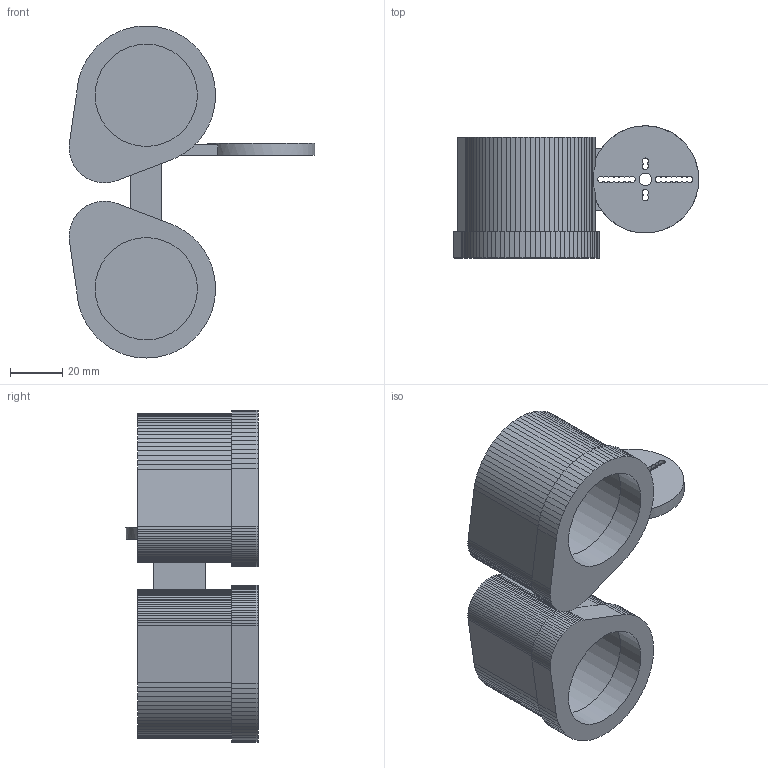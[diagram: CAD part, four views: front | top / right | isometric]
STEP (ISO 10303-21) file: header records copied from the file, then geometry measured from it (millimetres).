
FILE_DESCRIPTION(('Open CASCADE Model'),'2;1');
FILE_NAME('Open CASCADE Shape Model','2026-11-19T06:40:10',('Author'),( 'Open CASCADE'),'Open CASCADE STEP processor 8.0','Open CASCADE 8.0' ,'Unknown');
FILE_SCHEMA(('AUTOMOTIVE_DESIGN { 1 0 10303 214 1 1 1 1 }'));
Length unit declared in the file: millimetre
Products named in the file (1): Open CASCADE STEP translator 8.0 21
Bounding box: 94 x 50.5 x 127 mm (x, y, z)
Volume: 101078.7 mm3; surface area: 44134.2 mm2
Topology: 1 solids, 1 shells, 422 faces, 1239 edges, 826 vertices
Faces by surface type: plane 387, cylinder 35
Full cylindrical faces by diameter (mm): 4.8 x1, 39.15 x2, 41 x1, 44.15 x2
Entity records: 29507 total; most frequent: CARTESIAN_POINT 5532, DIRECTION 4148, LINE 3039, VECTOR 3039, ORIENTED_EDGE 2478, PCURVE 2478, DEFINITIONAL_REPRESENTATION 2478, EDGE_CURVE 1239
